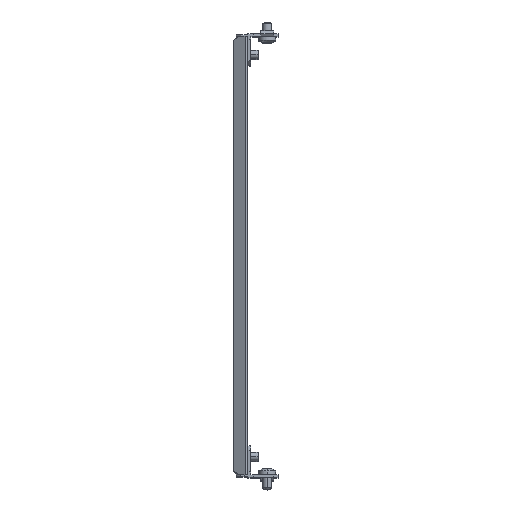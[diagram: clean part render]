
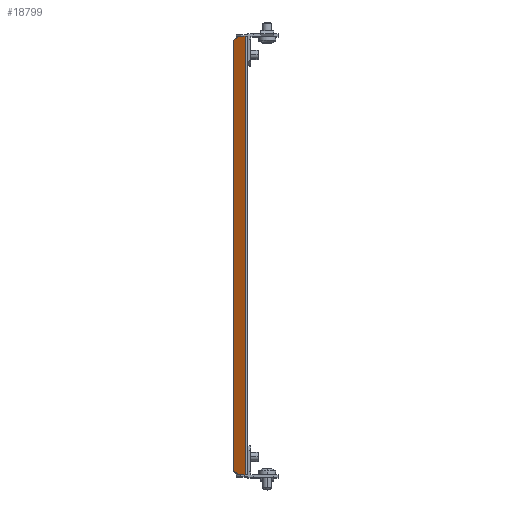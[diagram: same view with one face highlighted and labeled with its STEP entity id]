
A CAD part, top view. The second image highlights one B-rep face of the part: STEP entity #18799.
In plain terms, the highlighted planar face has unit normal (-0.5, 0, 0.866).
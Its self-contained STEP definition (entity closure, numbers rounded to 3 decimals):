
#358 = VERTEX_POINT ( 'NONE', #20669 ) ;
#753 = ORIENTED_EDGE ( 'NONE', *, *, #10139, .T. ) ;
#1170 = VECTOR ( 'NONE', #12251, 1000. ) ;
#1228 = DIRECTION ( 'NONE',  ( 0., 1., 0. ) ) ;
#2246 = VECTOR ( 'NONE', #16112, 1000. ) ;
#2306 = EDGE_CURVE ( 'NONE', #2761, #21755, #5359, .T. ) ;
#2453 = FACE_OUTER_BOUND ( 'NONE', #15093, .T. ) ;
#2538 = VECTOR ( 'NONE', #22438, 1000. ) ;
#2761 = VERTEX_POINT ( 'NONE', #10760 ) ;
#2893 = CARTESIAN_POINT ( 'NONE',  ( -6.927, 152., 195.831 ) ) ;
#3700 = LINE ( 'NONE', #17894, #12225 ) ;
#4306 = VECTOR ( 'NONE', #1228, 1000. ) ;
#4337 = DIRECTION ( 'NONE',  ( -0.5, 0., 0.866 ) ) ;
#4389 = ORIENTED_EDGE ( 'NONE', *, *, #2306, .T. ) ;
#4429 = CARTESIAN_POINT ( 'NONE',  ( -9.525, 149., 194.331 ) ) ;
#4465 = CARTESIAN_POINT ( 'NONE',  ( -112.062, -30.6, 135.131 ) ) ;
#4572 = PLANE ( 'NONE',  #16166 ) ;
#4586 = VERTEX_POINT ( 'NONE', #2893 ) ;
#4589 = DIRECTION ( 'NONE',  ( 0.866, 0., 0.5 ) ) ;
#5041 = LINE ( 'NONE', #15552, #1170 ) ;
#5359 = LINE ( 'NONE', #23317, #2246 ) ;
#6170 = ORIENTED_EDGE ( 'NONE', *, *, #14839, .F. ) ;
#6436 = CARTESIAN_POINT ( 'NONE',  ( -1.732, 0., 198.83 ) ) ;
#7225 = EDGE_CURVE ( 'NONE', #4586, #20993, #9570, .T. ) ;
#7280 = ORIENTED_EDGE ( 'NONE', *, *, #13313, .F. ) ;
#8177 = LINE ( 'NONE', #10060, #8563 ) ;
#8563 = VECTOR ( 'NONE', #10301, 1000. ) ;
#9174 = EDGE_CURVE ( 'NONE', #4586, #11857, #3700, .T. ) ;
#9570 = LINE ( 'NONE', #14885, #10747 ) ;
#10060 = CARTESIAN_POINT ( 'NONE',  ( -85.562, 152., 150.431 ) ) ;
#10139 = EDGE_CURVE ( 'NONE', #21755, #358, #12100, .T. ) ;
#10301 = DIRECTION ( 'NONE',  ( 0.866, 0., 0.5 ) ) ;
#10310 = CARTESIAN_POINT ( 'NONE',  ( -3.75, 152., 197.665 ) ) ;
#10747 = VECTOR ( 'NONE', #4589, 1000. ) ;
#10760 = CARTESIAN_POINT ( 'NONE',  ( -3.75, -152., 197.665 ) ) ;
#10913 = DIRECTION ( 'NONE',  ( -0.612, -0.707, -0.354 ) ) ;
#11857 = VERTEX_POINT ( 'NONE', #4429 ) ;
#12089 = ORIENTED_EDGE ( 'NONE', *, *, #14708, .T. ) ;
#12100 = LINE ( 'NONE', #6436, #4306 ) ;
#12225 = VECTOR ( 'NONE', #10913, 1000. ) ;
#12251 = DIRECTION ( 'NONE',  ( -0.866, 0., -0.5 ) ) ;
#12280 = CARTESIAN_POINT ( 'NONE',  ( -6.927, -152., 195.831 ) ) ;
#13313 = EDGE_CURVE ( 'NONE', #20993, #358, #8177, .T. ) ;
#13448 = LINE ( 'NONE', #4465, #2538 ) ;
#13866 = VERTEX_POINT ( 'NONE', #22946 ) ;
#14708 = EDGE_CURVE ( 'NONE', #13866, #17287, #13448, .T. ) ;
#14839 = EDGE_CURVE ( 'NONE', #13866, #11857, #23250, .T. ) ;
#14870 = DIRECTION ( 'NONE',  ( 0., 1., 0. ) ) ;
#14885 = CARTESIAN_POINT ( 'NONE',  ( -2.25, 152., 198.531 ) ) ;
#15093 = EDGE_LOOP ( 'NONE', ( #4389, #753, #7280, #15637, #17541, #6170, #12089, #19206 ) ) ;
#15552 = CARTESIAN_POINT ( 'NONE',  ( -9.525, -152., 194.331 ) ) ;
#15637 = ORIENTED_EDGE ( 'NONE', *, *, #7225, .F. ) ;
#15744 = VECTOR ( 'NONE', #17824, 1000. ) ;
#15910 = CARTESIAN_POINT ( 'NONE',  ( -1.732, -152., 198.83 ) ) ;
#16112 = DIRECTION ( 'NONE',  ( 0.866, 0., 0.5 ) ) ;
#16166 = AXIS2_PLACEMENT_3D ( 'NONE', #20544, #4337, #14870 ) ;
#17287 = VERTEX_POINT ( 'NONE', #12280 ) ;
#17541 = ORIENTED_EDGE ( 'NONE', *, *, #9174, .T. ) ;
#17780 = EDGE_CURVE ( 'NONE', #2761, #17287, #5041, .T. ) ;
#17824 = DIRECTION ( 'NONE',  ( 0., 1., 0. ) ) ;
#17894 = CARTESIAN_POINT ( 'NONE',  ( -112.062, 30.6, 135.131 ) ) ;
#18799 = ADVANCED_FACE ( 'NONE', ( #2453 ), #4572, .T. ) ;
#19206 = ORIENTED_EDGE ( 'NONE', *, *, #17780, .F. ) ;
#20544 = CARTESIAN_POINT ( 'NONE',  ( -85.562, 0., 150.431 ) ) ;
#20669 = CARTESIAN_POINT ( 'NONE',  ( -1.732, 152., 198.83 ) ) ;
#20993 = VERTEX_POINT ( 'NONE', #10310 ) ;
#21755 = VERTEX_POINT ( 'NONE', #15910 ) ;
#22438 = DIRECTION ( 'NONE',  ( 0.612, -0.707, 0.354 ) ) ;
#22946 = CARTESIAN_POINT ( 'NONE',  ( -9.525, -149., 194.331 ) ) ;
#23127 = CARTESIAN_POINT ( 'NONE',  ( -9.525, 152., 194.331 ) ) ;
#23250 = LINE ( 'NONE', #23127, #15744 ) ;
#23317 = CARTESIAN_POINT ( 'NONE',  ( -3.75, -152., 197.665 ) ) ;
